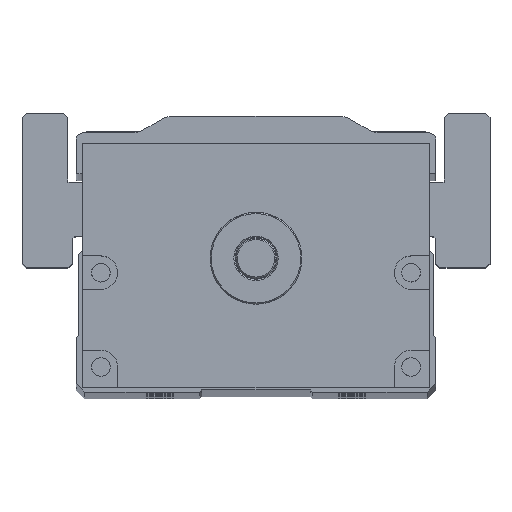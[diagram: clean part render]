
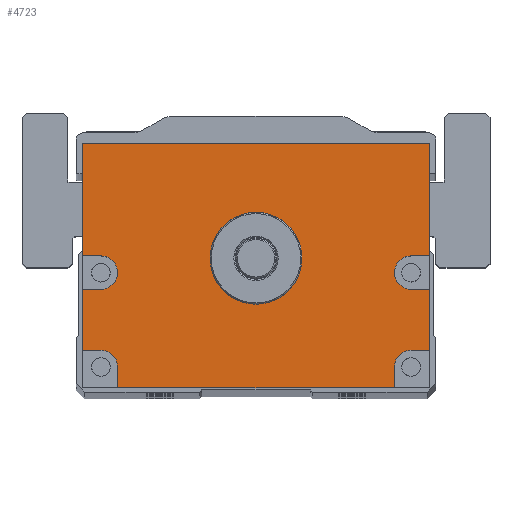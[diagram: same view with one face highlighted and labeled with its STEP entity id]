
A CAD part, top view. The second image highlights one B-rep face of the part: STEP entity #4723.
In plain terms, the highlighted planar face has unit normal (0, 0, 1).
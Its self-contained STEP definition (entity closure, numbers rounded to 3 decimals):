
#4028=FACE_BOUND('',#6475,.T.);
#4029=FACE_BOUND('',#6476,.T.);
#4723=ADVANCED_FACE('',(#4028,#4029),#5249,.T.);
#5249=PLANE('',#16130);
#6475=EDGE_LOOP('',(#10594,#10595,#10596,#10597,#10598,#10599,#10600,#10601,
#10602,#10603,#10604,#10605,#10606,#10607,#10608,#10609,#10610,#10611));
#6476=EDGE_LOOP('',(#10612));
#7443=LINE('',#23144,#8302);
#7445=LINE('',#23152,#8304);
#7446=LINE('',#23155,#8305);
#7447=LINE('',#23157,#8306);
#7448=LINE('',#23161,#8307);
#7449=LINE('',#23163,#8308);
#7450=LINE('',#23164,#8309);
#7451=LINE('',#23166,#8310);
#7452=LINE('',#23170,#8311);
#7453=LINE('',#23172,#8312);
#7454=LINE('',#23174,#8313);
#7455=LINE('',#23178,#8314);
#7456=LINE('',#23180,#8315);
#7457=LINE('',#23182,#8316);
#8302=VECTOR('',#18526,1.);
#8304=VECTOR('',#18534,1.);
#8305=VECTOR('',#18535,1.);
#8306=VECTOR('',#18536,1.);
#8307=VECTOR('',#18539,1.);
#8308=VECTOR('',#18540,1.);
#8309=VECTOR('',#18541,1.);
#8310=VECTOR('',#18542,1.);
#8311=VECTOR('',#18545,1.);
#8312=VECTOR('',#18546,1.);
#8313=VECTOR('',#18547,1.);
#8314=VECTOR('',#18550,1.);
#8315=VECTOR('',#18551,1.);
#8316=VECTOR('',#18552,1.);
#10594=ORIENTED_EDGE('',*,*,#14215,.F.);
#10595=ORIENTED_EDGE('',*,*,#14216,.T.);
#10596=ORIENTED_EDGE('',*,*,#14217,.F.);
#10597=ORIENTED_EDGE('',*,*,#14218,.F.);
#10598=ORIENTED_EDGE('',*,*,#14219,.F.);
#10599=ORIENTED_EDGE('',*,*,#14220,.T.);
#10600=ORIENTED_EDGE('',*,*,#14211,.T.);
#10601=ORIENTED_EDGE('',*,*,#14221,.T.);
#10602=ORIENTED_EDGE('',*,*,#14222,.F.);
#10603=ORIENTED_EDGE('',*,*,#14223,.F.);
#10604=ORIENTED_EDGE('',*,*,#14224,.F.);
#10605=ORIENTED_EDGE('',*,*,#14225,.T.);
#10606=ORIENTED_EDGE('',*,*,#14226,.F.);
#10607=ORIENTED_EDGE('',*,*,#14227,.F.);
#10608=ORIENTED_EDGE('',*,*,#14228,.F.);
#10609=ORIENTED_EDGE('',*,*,#14229,.T.);
#10610=ORIENTED_EDGE('',*,*,#14230,.F.);
#10611=ORIENTED_EDGE('',*,*,#14231,.F.);
#10612=ORIENTED_EDGE('',*,*,#14197,.T.);
#12710=VERTEX_POINT('',#23115);
#12723=VERTEX_POINT('',#23143);
#12724=VERTEX_POINT('',#23145);
#12727=VERTEX_POINT('',#23153);
#12728=VERTEX_POINT('',#23154);
#12729=VERTEX_POINT('',#23156);
#12730=VERTEX_POINT('',#23158);
#12731=VERTEX_POINT('',#23160);
#12732=VERTEX_POINT('',#23162);
#12733=VERTEX_POINT('',#23165);
#12734=VERTEX_POINT('',#23167);
#12735=VERTEX_POINT('',#23169);
#12736=VERTEX_POINT('',#23171);
#12737=VERTEX_POINT('',#23173);
#12738=VERTEX_POINT('',#23175);
#12739=VERTEX_POINT('',#23177);
#12740=VERTEX_POINT('',#23179);
#12741=VERTEX_POINT('',#23181);
#12742=VERTEX_POINT('',#23183);
#14197=EDGE_CURVE('',#12710,#12710,#15202,.T.);
#14211=EDGE_CURVE('',#12724,#12723,#7443,.T.);
#14215=EDGE_CURVE('',#12727,#12728,#7445,.T.);
#14216=EDGE_CURVE('',#12727,#12729,#7446,.T.);
#14217=EDGE_CURVE('',#12730,#12729,#7447,.T.);
#14218=EDGE_CURVE('',#12731,#12730,#15213,.T.);
#14219=EDGE_CURVE('',#12732,#12731,#7448,.T.);
#14220=EDGE_CURVE('',#12732,#12724,#7449,.T.);
#14221=EDGE_CURVE('',#12723,#12733,#7450,.T.);
#14222=EDGE_CURVE('',#12734,#12733,#7451,.T.);
#14223=EDGE_CURVE('',#12735,#12734,#15214,.T.);
#14224=EDGE_CURVE('',#12736,#12735,#7452,.T.);
#14225=EDGE_CURVE('',#12736,#12737,#7453,.T.);
#14226=EDGE_CURVE('',#12738,#12737,#7454,.T.);
#14227=EDGE_CURVE('',#12739,#12738,#15215,.T.);
#14228=EDGE_CURVE('',#12740,#12739,#7455,.T.);
#14229=EDGE_CURVE('',#12740,#12741,#7456,.T.);
#14230=EDGE_CURVE('',#12742,#12741,#7457,.T.);
#14231=EDGE_CURVE('',#12728,#12742,#15216,.T.);
#15202=CIRCLE('',#16112,11.);
#15213=CIRCLE('',#16126,4.);
#15214=CIRCLE('',#16127,4.);
#15215=CIRCLE('',#16128,4.);
#15216=CIRCLE('',#16129,4.);
#16112=AXIS2_PLACEMENT_3D('',#23114,#18499,#18500);
#16126=AXIS2_PLACEMENT_3D('',#23159,#18537,#18538);
#16127=AXIS2_PLACEMENT_3D('',#23168,#18543,#18544);
#16128=AXIS2_PLACEMENT_3D('',#23176,#18548,#18549);
#16129=AXIS2_PLACEMENT_3D('',#23184,#18553,#18554);
#16130=AXIS2_PLACEMENT_3D('',#23185,#18555,#18556);
#18499=DIRECTION('',(0.,0.,-1.));
#18500=DIRECTION('',(1.,0.,0.));
#18526=DIRECTION('',(-1.,0.,0.));
#18534=DIRECTION('',(-1.,0.,0.));
#18535=DIRECTION('',(0.,1.,0.));
#18536=DIRECTION('',(1.,0.,0.));
#18537=DIRECTION('',(0.,0.,1.));
#18538=DIRECTION('',(1.,0.,0.));
#18539=DIRECTION('',(-1.,0.,0.));
#18540=DIRECTION('',(0.,1.,0.));
#18541=DIRECTION('',(0.,-1.,0.));
#18542=DIRECTION('',(-1.,0.,0.));
#18543=DIRECTION('',(0.,0.,1.));
#18544=DIRECTION('',(1.,0.,0.));
#18545=DIRECTION('',(1.,0.,0.));
#18546=DIRECTION('',(0.,-1.,0.));
#18547=DIRECTION('',(-1.,0.,0.));
#18548=DIRECTION('',(0.,0.,1.));
#18549=DIRECTION('',(1.,0.,0.));
#18550=DIRECTION('',(0.,1.,0.));
#18551=DIRECTION('',(1.,0.,0.));
#18552=DIRECTION('',(0.,-1.,0.));
#18553=DIRECTION('',(0.,0.,1.));
#18554=DIRECTION('',(1.,0.,0.));
#18555=DIRECTION('',(0.,0.,1.));
#18556=DIRECTION('',(1.,0.,0.));
#23114=CARTESIAN_POINT('',(0.,0.,782.5));
#23115=CARTESIAN_POINT('',(11.,0.,782.5));
#23143=CARTESIAN_POINT('',(-41.5,27.5,782.5));
#23144=CARTESIAN_POINT('',(41.5,27.5,782.5));
#23145=CARTESIAN_POINT('',(41.5,27.5,782.5));
#23152=CARTESIAN_POINT('',(41.5,-22.,782.5));
#23153=CARTESIAN_POINT('',(41.5,-22.,782.5));
#23154=CARTESIAN_POINT('',(37.115,-22.,782.5));
#23155=CARTESIAN_POINT('',(41.5,-31.,782.5));
#23156=CARTESIAN_POINT('',(41.5,-7.431,782.5));
#23157=CARTESIAN_POINT('',(41.5,-7.431,782.5));
#23158=CARTESIAN_POINT('',(37.115,-7.431,782.5));
#23159=CARTESIAN_POINT('',(37.115,-3.431,782.5));
#23160=CARTESIAN_POINT('',(37.115,0.569,782.5));
#23161=CARTESIAN_POINT('',(41.5,0.569,782.5));
#23162=CARTESIAN_POINT('',(41.5,0.569,782.5));
#23163=CARTESIAN_POINT('',(41.5,-31.,782.5));
#23164=CARTESIAN_POINT('',(-41.5,27.5,782.5));
#23165=CARTESIAN_POINT('',(-41.5,0.569,782.5));
#23166=CARTESIAN_POINT('',(41.5,0.569,782.5));
#23167=CARTESIAN_POINT('',(-37.115,0.569,782.5));
#23168=CARTESIAN_POINT('',(-37.115,-3.431,782.5));
#23169=CARTESIAN_POINT('',(-37.115,-7.431,782.5));
#23170=CARTESIAN_POINT('',(41.5,-7.431,782.5));
#23171=CARTESIAN_POINT('',(-41.5,-7.431,782.5));
#23172=CARTESIAN_POINT('',(-41.5,27.5,782.5));
#23173=CARTESIAN_POINT('',(-41.5,-22.,782.5));
#23174=CARTESIAN_POINT('',(41.5,-22.,782.5));
#23175=CARTESIAN_POINT('',(-37.115,-22.,782.5));
#23176=CARTESIAN_POINT('',(-37.115,-26.,782.5));
#23177=CARTESIAN_POINT('',(-33.115,-26.,782.5));
#23178=CARTESIAN_POINT('',(-33.115,-31.,782.5));
#23179=CARTESIAN_POINT('',(-33.115,-31.,782.5));
#23180=CARTESIAN_POINT('',(-41.5,-31.,782.5));
#23181=CARTESIAN_POINT('',(33.115,-31.,782.5));
#23182=CARTESIAN_POINT('',(33.115,-31.,782.5));
#23183=CARTESIAN_POINT('',(33.115,-26.,782.5));
#23184=CARTESIAN_POINT('',(37.115,-26.,782.5));
#23185=CARTESIAN_POINT('',(41.5,-31.,782.5));
